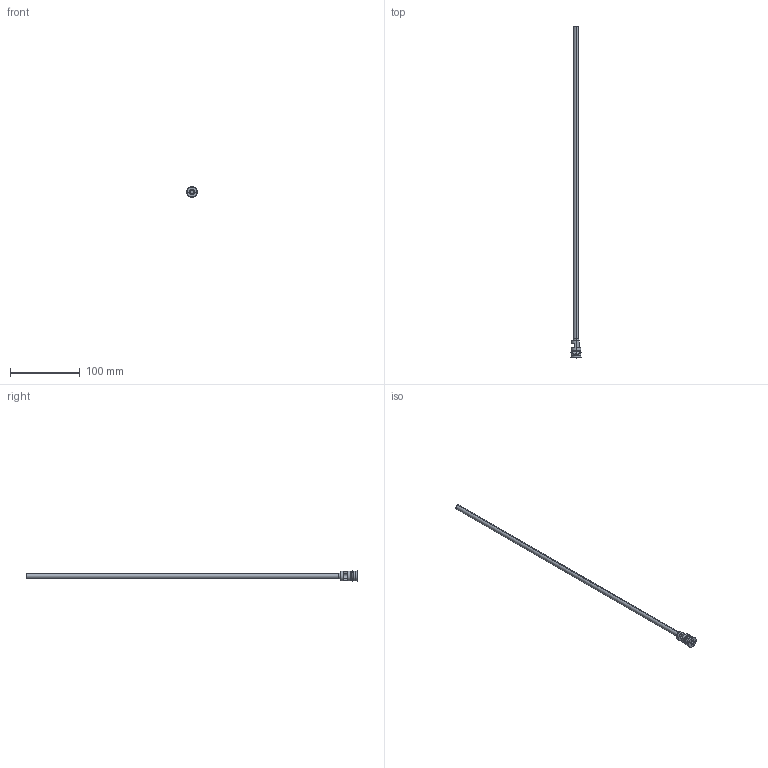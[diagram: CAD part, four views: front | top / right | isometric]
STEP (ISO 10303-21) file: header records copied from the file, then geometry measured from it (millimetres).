
FILE_DESCRIPTION (( 'STEP AP203' ), '1' );
FILE_NAME ('RF-14Fx450.STEP', '2015-11-20T10:29:59', ( 'Balzi' ), ( '' ), 'SwSTEP 2.0', 'SolidWorks 2015', '' );
FILE_SCHEMA (( 'CONFIG_CONTROL_DESIGN' ));
Length unit declared in the file: millimetre
Products named in the file (1): RF-14Fx450
Bounding box: 15.3 x 474.5 x 15.3 mm (x, y, z)
Volume: 7145.5 mm3; surface area: 20328.1 mm2
Topology: 1 solids, 1 shells, 71 faces, 164 edges, 102 vertices
Faces by surface type: cylinder 26, plane 25, cone 12, torus 8
Entity records: 2114 total; most frequent: DIRECTION 385, CARTESIAN_POINT 357, ORIENTED_EDGE 328, EDGE_CURVE 164, AXIS2_PLACEMENT_3D 154, VERTEX_POINT 102, CIRCLE 82, EDGE_LOOP 80
